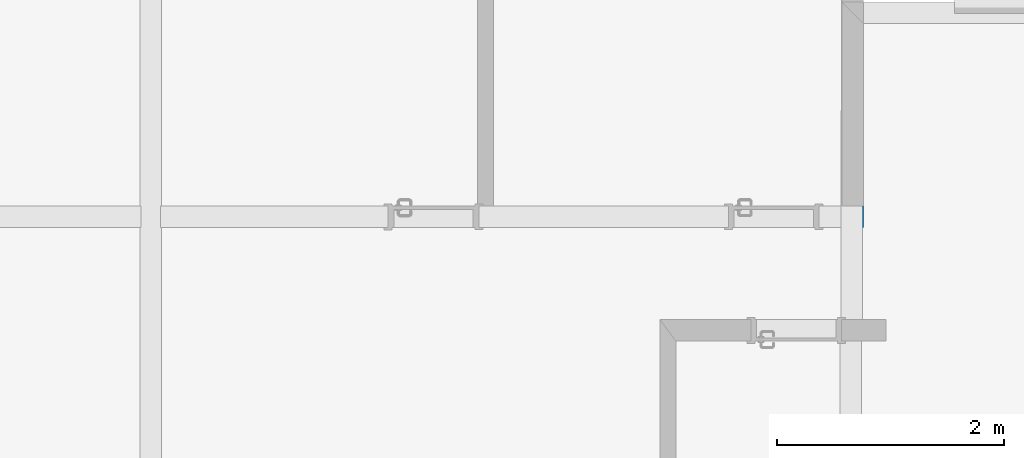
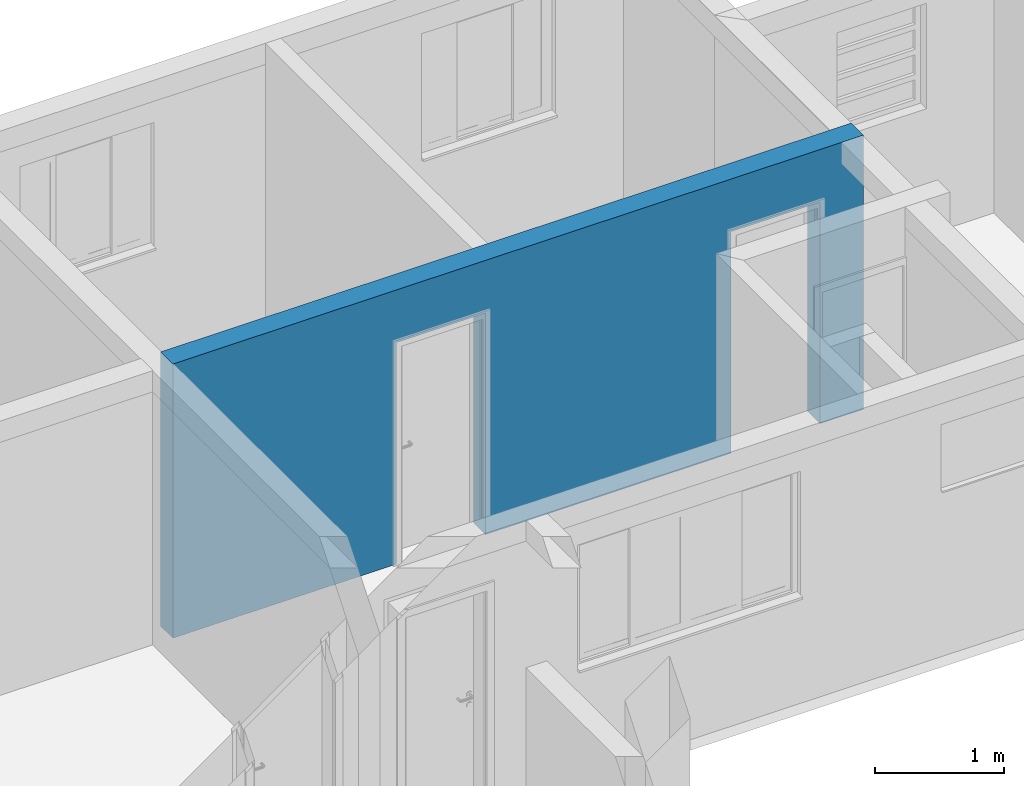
# One storey, part 36 of 43: 1 wall, 2 openings.
"""IFC2X3 building model written with IfcOpenShell, lengths in millimetres."""

from ifc_helpers import new_model, entity, si_unit, converted_unit, derived_unit, money_unit, direction, frame, origin_with_axes, origin_2d_with_axis, place, context, subcontext, project, spatial, polyline, rectangle, outline, extrude, material, layer, layer_set, layer_usage, type_object, element, save


model = new_model("IFC2X3")

# Units and contexts
model_context = context("Model", 3, precision=0.01, world=origin_with_axes(), true_north=direction((0.0, 1.0)))
body_context = subcontext(model_context, "Body", "Model", "MODEL_VIEW")
ifc_project = project(units=[si_unit("LENGTHUNIT", "METRE", prefix="MILLI"), si_unit("AREAUNIT", "SQUARE_METRE"), si_unit("VOLUMEUNIT", "CUBIC_METRE"), converted_unit("PLANEANGLEUNIT", "DEGREE", entity("IfcPlaneAngleMeasure", 0.0174532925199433), si_unit("PLANEANGLEUNIT", "RADIAN"), dimensions=[0, 0, 0, 0, 0, 0, 0]), money_unit("USD"), converted_unit("TIMEUNIT", "Year", entity("IfcTimeMeasure", 31557600.0), si_unit("TIMEUNIT", "SECOND"), dimensions=[0, 0, 1, 0, 0, 0, 0]), si_unit("MASSUNIT", "GRAM", prefix="KILO"), si_unit("THERMODYNAMICTEMPERATUREUNIT", "DEGREE_CELSIUS"), si_unit("LUMINOUSINTENSITYUNIT", "LUMEN"), si_unit("ENERGYUNIT", "JOULE", prefix="MEGA"), derived_unit("THERMALCONDUCTANCEUNIT", [(si_unit("POWERUNIT", "WATT"), 1), (si_unit("LENGTHUNIT", "METRE"), -1), (si_unit("THERMODYNAMICTEMPERATUREUNIT", "KELVIN"), -1)]), derived_unit("SPECIFICHEATCAPACITYUNIT", [(si_unit("ENERGYUNIT", "JOULE"), 1), (si_unit("MASSUNIT", "GRAM", prefix="KILO"), -1), (si_unit("THERMODYNAMICTEMPERATUREUNIT", "KELVIN"), -1)]), derived_unit("MASSDENSITYUNIT", [(si_unit("MASSUNIT", "GRAM", prefix="KILO"), 1), (si_unit("VOLUMEUNIT", "CUBIC_METRE"), -1)])], contexts=[model_context])

# Site, building, storey
site_placement = place(None, origin_with_axes())
site = spatial("IfcSite", under=ifc_project, at=site_placement, Name="Local", CompositionType="ELEMENT")
building_placement = place(site_placement, origin_with_axes())
building = spatial("IfcBuilding", under=site, at=building_placement, Name="Construção", CompositionType="ELEMENT")
storey_placement = place(building_placement, origin_with_axes())
storey = spatial("IfcBuildingStorey", under=building, at=storey_placement, Name="Pavimento Tipo", CompositionType="ELEMENT", Elevation=0.0)

# Wall, openings
ifc_material = material(Name="Concreto - Estrutural")
ifc_layer = layer(ifc_material, 190.0, ventilated="UNKNOWN")
ifc_layer_set = layer_set([ifc_layer], Name="Concreto - Estrutural 190")
ifc_layer_usage = layer_usage(ifc_layer_set, "AXIS2", "NEGATIVE", 190.0)
wall_type = type_object("IfcWallType", Name="Concreto - Estrutural 190", PredefinedType="NOTDEFINED")
wall_placement = place(storey_placement, frame((63884.1437484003, 8843.373116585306, 0.0), z_axis=(0.0, 0.0, 1.0), x_axis=(0.9999999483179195, 0.000321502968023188, 0.0)))
wall = element("IfcWallStandardCase", 1, at=wall_placement, inside=storey, type_object=wall_type, material=ifc_layer_usage, Name="Apartamento 1 - Parede-007", context=body_context, shape_type="SweptSolid", body=[
    extrude(outline(polyline([(0.0, 0.0), (6195.390722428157, 0.0), (6195.390722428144, 189.9999999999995), (0.0, 190.0000000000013), (0.0, 0.0)])), origin_with_axes(), (0.0, 0.0, 1.0), 2600.0),
])
opening_1_placement = place(wall_placement, frame((5405.39074258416, 0.0, 0.0), z_axis=(0.0, 0.0, 1.0), x_axis=(1.0, 0.0, 0.0)))
element("IfcOpeningElement", 2, at=opening_1_placement, cuts=wall, Name="Apartamento 1 - P03", context=body_context, shape_type="SweptSolid", body=[
    extrude(rectangle(XDim=799.9999999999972, YDim=2100.0, at=origin_2d_with_axis()), frame((0.0, 190.0000000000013, 1050.0), z_axis=(0.0, -1.0, 0.0), x_axis=(1.0, 0.0, 0.0)), (0.0, 0.0, 1.0), 570.0000000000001),
    extrude(rectangle(XDim=869.9999999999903, YDim=2135.0, at=origin_2d_with_axis()), frame((0.0, 190.0000000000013, 1067.5), z_axis=(0.0, -1.0, 0.0), x_axis=(1.0, 0.0, 0.0)), (0.0, 0.0, -1.0), 190.0),
    extrude(rectangle(XDim=870.0000000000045, YDim=2135.0, at=origin_2d_with_axis()), frame((0.0, 0.0, 1067.5), z_axis=(0.0, 1.0, 0.0), x_axis=(1.0, 0.0, 0.0)), (0.0, 0.0, -1.0), 190.0),
])
opening_2_placement = place(wall_placement, frame((2405.390897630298, 0.0, 0.0), z_axis=(0.0, 0.0, 1.0), x_axis=(1.0, 0.0, 0.0)))
element("IfcOpeningElement", 3, at=opening_2_placement, cuts=wall, Name="Apartamento 1 - P04", context=body_context, shape_type="SweptSolid", body=[
    extrude(rectangle(XDim=799.9999999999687, YDim=2100.0, at=origin_2d_with_axis()), frame((0.0, 189.9999999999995, 1050.0), z_axis=(0.0, -1.0, 0.0), x_axis=(1.0, 0.0, 0.0)), (0.0, 0.0, 1.0), 570.0000000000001),
    extrude(rectangle(XDim=869.9999999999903, YDim=2135.0, at=origin_2d_with_axis()), frame((0.0, 189.9999999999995, 1067.5), z_axis=(0.0, -1.0, 0.0), x_axis=(1.0, 0.0, 0.0)), (0.0, 0.0, -1.0), 190.0),
    extrude(rectangle(XDim=869.9999999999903, YDim=2135.0, at=origin_2d_with_axis()), frame((0.0, 0.0, 1067.5), z_axis=(0.0, 1.0, 0.0), x_axis=(1.0, 0.0, 0.0)), (0.0, 0.0, -1.0), 190.0),
])

save(model, "model.ifc")
